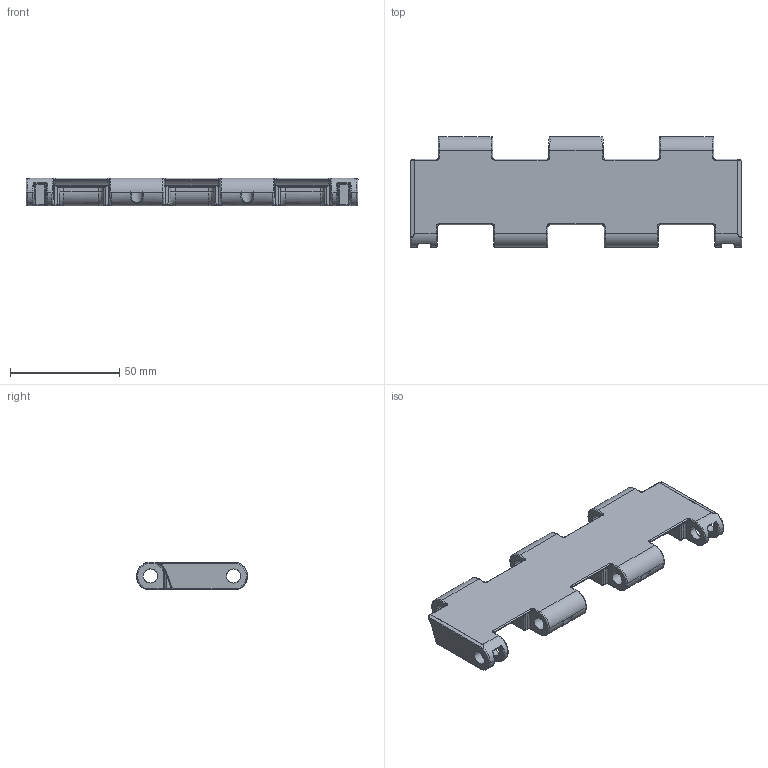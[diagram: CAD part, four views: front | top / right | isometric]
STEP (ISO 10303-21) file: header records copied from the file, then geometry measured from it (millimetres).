
FILE_DESCRIPTION((''),'2;1');
FILE_NAME('P193','2009-02-25T',('jbe'),(''),'PRO/ENGINEER BY PARAMETRIC TECHNOLOGY CORPORATION, 2008400','PRO/ENGINEER BY PARAMETRIC TECHNOLOGY CORPORATION, 2008400','');
FILE_SCHEMA(('CONFIG_CONTROL_DESIGN'));
Length unit declared in the file: millimetre
Products named in the file (1): P193
Bounding box: 152.2 x 50.8 x 12.7 mm (x, y, z)
Volume: 39797.4 mm3; surface area: 22462.3 mm2
Topology: 1 solids, 1 shells, 586 faces, 1371 edges, 788 vertices
Faces by surface type: cylinder 252, bspline 231, plane 85, torus 14, sphere 4
Entity records: 32819 total; most frequent: CARTESIAN_POINT 21236, ORIENTED_EDGE 2742, DIRECTION 1923, EDGE_CURVE 1371, VERTEX_POINT 788, AXIS2_PLACEMENT_3D 732, EDGE_LOOP 605, FACE_OUTER_BOUND 586
